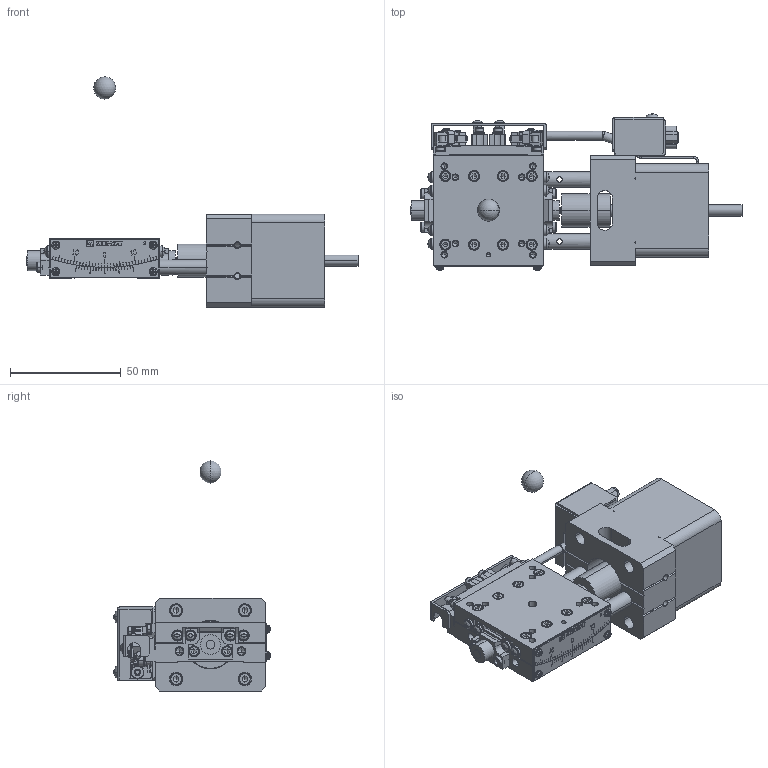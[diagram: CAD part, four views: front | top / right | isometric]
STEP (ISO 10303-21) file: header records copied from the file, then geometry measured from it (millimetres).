
FILE_DESCRIPTION( (''), '2;1');
FILE_NAME ('MVSA05B-RM02.stp','2021-10-05T16:27:59',(''),(''),'spGate 17.5.5','','');
FILE_SCHEMA (('AUTOMOTIVE_DESIGN'));
Length unit declared in the file: millimetre
Products named in the file (4): Assembly; MVSA05B-RM02-prt0; MVSA05B-RM02-prt1; MVSA05B-RM02-prt2
Assembly tree (3 placements, depth 2):
  Assembly
    MVSA05B-RM02-prt0
    MVSA05B-RM02-prt1
    MVSA05B-RM02-prt2
Bounding box: 150 x 70.67 x 104 mm (x, y, z)
Volume: 149080.2 mm3; surface area: 54179.2 mm2
Topology: 3 solids, 6 shells, 3276 faces, 8149 edges, 5012 vertices
Faces by surface type: plane 1851, cylinder 918, bspline 450, sphere 57
Entity records: 166443 total; most frequent: CARTESIAN_POINT 26720, ORIENTED_EDGE 16030, DIRECTION 14883, COLOUR_RGB 11294, PRESENTATION_STYLE_ASSIGNMENT 11294, STYLED_ITEM 11294, EDGE_CURVE 8015, DRAUGHTING_PRE_DEFINED_CURVE_FONT 8015
